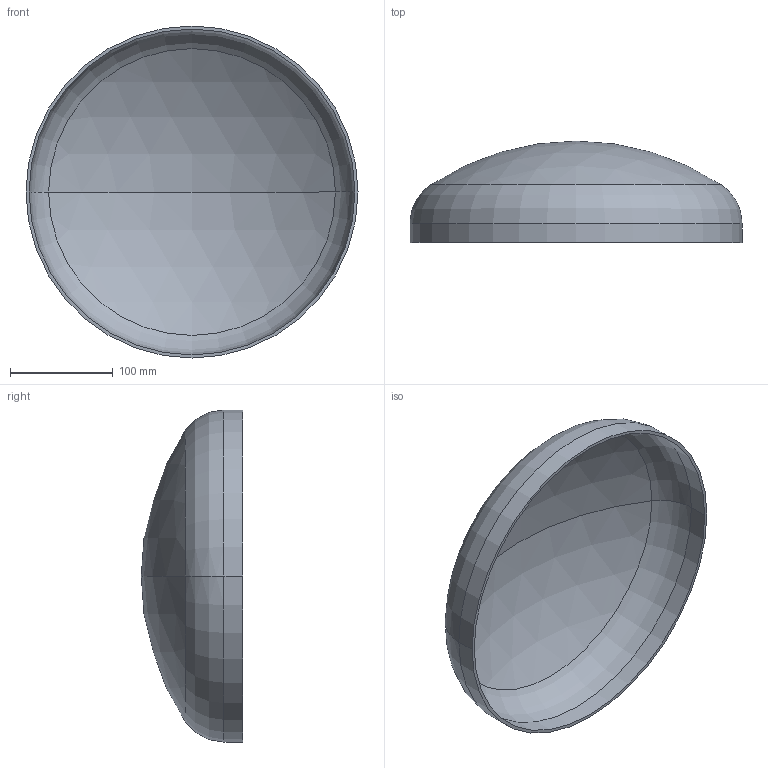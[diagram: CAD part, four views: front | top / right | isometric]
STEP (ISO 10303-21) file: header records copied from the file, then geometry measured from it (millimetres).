
FILE_DESCRIPTION (( 'STEP AP203' ), '1' );
FILE_NAME ('3D_R365_323.9x3_173372170.STEP', '2024-07-16T06:59:23', ( '' ), ( '' ), 'SwSTEP 2.0', 'SolidWorks 2024', '' );
FILE_SCHEMA (( 'CONFIG_CONTROL_DESIGN' ));
Length unit declared in the file: millimetre
Products named in the file (1): 3D_R365_323.9x3_173372170
Bounding box: 323.9 x 99 x 323.9 mm (x, y, z)
Volume: 384883.4 mm3; surface area: 259632.1 mm2
Topology: 1 solids, 1 shells, 13 faces, 24 edges, 14 vertices
Faces by surface type: sphere 4, torus 4, cylinder 4, plane 1
Entity records: 407 total; most frequent: DIRECTION 72, CARTESIAN_POINT 52, ORIENTED_EDGE 48, AXIS2_PLACEMENT_3D 34, EDGE_CURVE 24, CIRCLE 20, VERTEX_POINT 14, EDGE_LOOP 14
